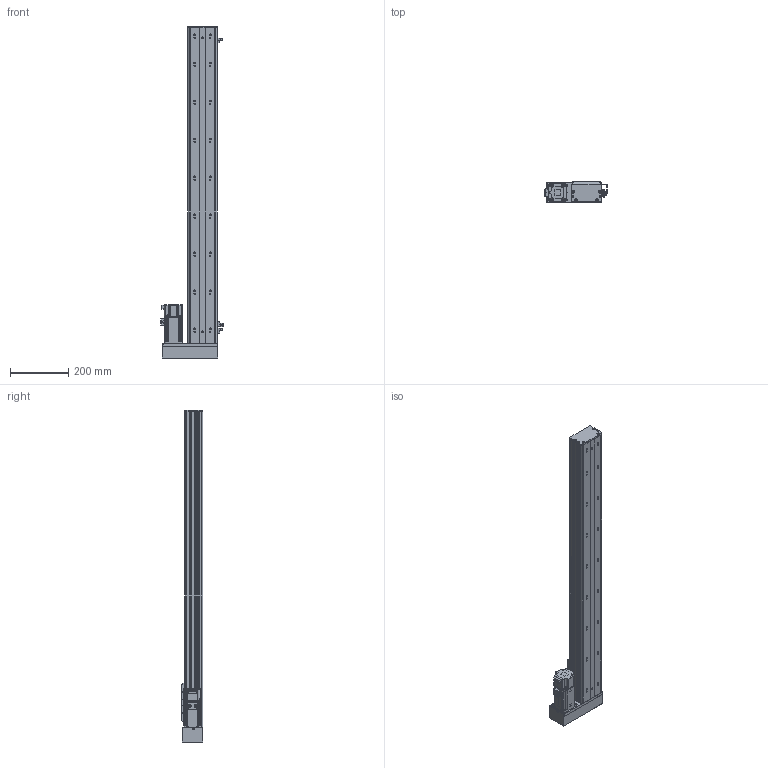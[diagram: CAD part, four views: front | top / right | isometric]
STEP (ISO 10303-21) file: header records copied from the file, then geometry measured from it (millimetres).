
FILE_DESCRIPTION (( 'STEP AP203' ), '1' );
FILE_NAME ('BOSW100-900-1610-1P-RM-M400W-O-S3（方程式2016）.step', '2020-10-10T07:21:48', ( '' ), ( '' ), 'SwSTEP 2.0', 'SolidWorks 2016', '' );
FILE_SCHEMA (( 'CONFIG_CONTROL_DESIGN' ));
Length unit declared in the file: millimetre
Products named in the file (14): 新结构AIMSW-100-1P-宽&高轨共用-滑动座上组件; 俋境嫖覜嘐隅啣; boS-100-LM&RM-三菱M400W马达板-宽轨; BOSW-100-1P-DM-宽轨-钢带-900客户图纸; BOSW&TW-100-1P-賑雄釱欶; S400W(SMA-L040); 放大器内置U型微型光电传感器PM-L65; BOSW-100-1P-DM-900諦誧芞; BOSW-100-綴裔啣; AIMS(W)-100-LM&RM-肮祭謫欶; BOSW-100-1P-DM-宽轨-侧板-900客户图纸; BOSW&TW-100-詩湍揤沭(陔賦凳); BOSW100-900-1610-1P-RM-M400W-O-S3（方程式2016）; BOSW&TW-100-俋离覜茼え
Assembly tree (19 placements, depth 2):
  BOSW100-900-1610-1P-RM-M400W-O-S3（方程式2016）
    BOSW-100-1P-DM-900諦誧芞
    BOSW-100-綴裔啣
    新结构AIMSW-100-1P-宽&高轨共用-滑动座上组件
    S400W(SMA-L040)
    BOSW&TW-100-詩湍揤沭(陔賦凳)  x2
    BOSW&TW-100-1P-賑雄釱欶
    BOSW-100-1P-DM-宽轨-侧板-900客户图纸  x2
    BOSW-100-1P-DM-宽轨-钢带-900客户图纸
    AIMS(W)-100-LM&RM-肮祭謫欶
    boS-100-LM&RM-三菱M400W马达板-宽轨
    俋境嫖覜嘐隅啣  x3
    放大器内置U型微型光电传感器PM-L65  x3
    BOSW&TW-100-俋离覜茼え
Bounding box: 213.4 x 75 x 1136 mm (x, y, z)
Volume: 2479198.9 mm3; surface area: 1152258.7 mm2
Topology: 19 solids, 20 shells, 2563 faces, 6777 edges, 4327 vertices
Faces by surface type: plane 1247, cylinder 830, bspline 271, cone 167, torus 36, sphere 12
Entity records: 70672 total; most frequent: CARTESIAN_POINT 21082, ORIENTED_EDGE 10094, DIRECTION 9795, EDGE_CURVE 5047, AXIS2_PLACEMENT_3D 3487, VERTEX_POINT 3229, VECTOR 2821, LINE 2821
